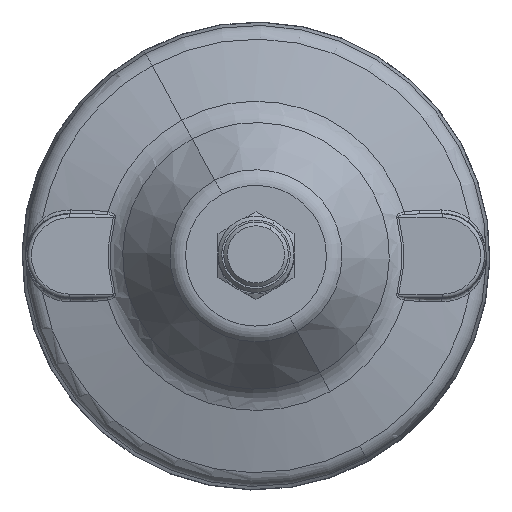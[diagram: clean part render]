
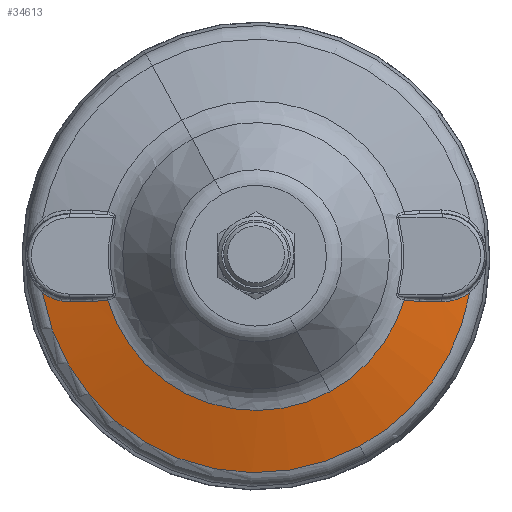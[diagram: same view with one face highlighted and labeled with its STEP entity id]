
A CAD part, top view. The second image highlights one B-rep face of the part: STEP entity #34613.
In plain terms, the highlighted conical face has half-angle 75 degrees and reference radius 40.631 mm.
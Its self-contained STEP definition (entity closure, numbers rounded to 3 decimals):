
#32797=CARTESIAN_POINT('Vertex',(38.937,-11.609,21.19)) ;
#33024=CARTESIAN_POINT('Vertex',(-38.937,-11.609,21.19)) ;
#33616=CARTESIAN_POINT('Vertex',(19.479,-35.657,21.19)) ;
#33619=CARTESIAN_POINT('Axis2P3D Location',(0.,0.,21.19)) ;
#33691=CARTESIAN_POINT('Control Point',(42.914,-11.979,20.139)) ;
#33692=CARTESIAN_POINT('Control Point',(42.572,-11.974,20.227)) ;
#33693=CARTESIAN_POINT('Control Point',(42.231,-11.964,20.316)) ;
#33694=CARTESIAN_POINT('Control Point',(41.89,-11.949,20.405)) ;
#33695=CARTESIAN_POINT('Control Point',(41.092,-11.901,20.614)) ;
#33696=CARTESIAN_POINT('Control Point',(40.296,-11.822,20.825)) ;
#33697=CARTESIAN_POINT('Control Point',(39.844,-11.766,20.945)) ;
#33698=CARTESIAN_POINT('Control Point',(39.389,-11.697,21.067)) ;
#33699=CARTESIAN_POINT('Control Point',(38.937,-11.609,21.19)) ;
#33700=CARTESIAN_POINT('Vertex',(42.914,-11.979,20.139)) ;
#33755=CARTESIAN_POINT('Control Point',(42.914,-11.979,20.139)) ;
#33756=CARTESIAN_POINT('Control Point',(44.078,-11.996,19.837)) ;
#33757=CARTESIAN_POINT('Control Point',(45.244,-12.014,19.534)) ;
#33758=CARTESIAN_POINT('Control Point',(46.412,-12.031,19.23)) ;
#33759=CARTESIAN_POINT('Control Point',(47.58,-12.048,18.926)) ;
#33760=CARTESIAN_POINT('Control Point',(48.749,-12.066,18.621)) ;
#33761=CARTESIAN_POINT('Vertex',(48.749,-12.066,18.621)) ;
#33816=CARTESIAN_POINT('Control Point',(48.749,-12.066,18.621)) ;
#33817=CARTESIAN_POINT('Control Point',(49.715,-12.08,18.368)) ;
#33818=CARTESIAN_POINT('Control Point',(50.686,-11.998,18.121)) ;
#33819=CARTESIAN_POINT('Control Point',(51.651,-11.819,17.88)) ;
#33820=CARTESIAN_POINT('Control Point',(53.164,-11.375,17.51)) ;
#33821=CARTESIAN_POINT('Control Point',(54.604,-10.681,17.169)) ;
#33822=CARTESIAN_POINT('Control Point',(55.129,-10.388,17.046)) ;
#33823=CARTESIAN_POINT('Control Point',(55.638,-10.059,16.928)) ;
#33824=CARTESIAN_POINT('Control Point',(56.128,-9.696,16.815)) ;
#33825=CARTESIAN_POINT('Vertex',(56.128,-9.696,16.815)) ;
#33880=CARTESIAN_POINT('Control Point',(-48.749,-12.066,18.621)) ;
#33881=CARTESIAN_POINT('Control Point',(-47.58,-12.048,18.926)) ;
#33882=CARTESIAN_POINT('Control Point',(-46.413,-12.031,19.23)) ;
#33883=CARTESIAN_POINT('Control Point',(-45.245,-12.014,19.534)) ;
#33884=CARTESIAN_POINT('Control Point',(-44.079,-11.996,19.837)) ;
#33885=CARTESIAN_POINT('Control Point',(-42.914,-11.979,20.139)) ;
#33886=CARTESIAN_POINT('Vertex',(-48.749,-12.066,18.621)) ;
#33888=CARTESIAN_POINT('Vertex',(-42.914,-11.979,20.139)) ;
#33968=CARTESIAN_POINT('Control Point',(-38.937,-11.609,21.19)) ;
#33969=CARTESIAN_POINT('Control Point',(-39.259,-11.671,21.103)) ;
#33970=CARTESIAN_POINT('Control Point',(-39.58,-11.724,21.016)) ;
#33971=CARTESIAN_POINT('Control Point',(-39.902,-11.77,20.93)) ;
#33972=CARTESIAN_POINT('Control Point',(-40.698,-11.867,20.718)) ;
#33973=CARTESIAN_POINT('Control Point',(-41.495,-11.929,20.508)) ;
#33974=CARTESIAN_POINT('Control Point',(-41.968,-11.955,20.384)) ;
#33975=CARTESIAN_POINT('Control Point',(-42.441,-11.972,20.261)) ;
#33976=CARTESIAN_POINT('Control Point',(-42.914,-11.979,20.139)) ;
#33985=CARTESIAN_POINT('Axis2P3D Location',(0.,0.,21.19)) ;
#34187=CARTESIAN_POINT('Control Point',(-56.128,-9.696,16.815)) ;
#34188=CARTESIAN_POINT('Control Point',(-55.222,-10.367,17.023)) ;
#34189=CARTESIAN_POINT('Control Point',(-54.251,-10.921,17.251)) ;
#34190=CARTESIAN_POINT('Control Point',(-53.236,-11.355,17.493)) ;
#34191=CARTESIAN_POINT('Control Point',(-51.724,-11.81,17.861)) ;
#34192=CARTESIAN_POINT('Control Point',(-50.185,-12.016,18.25)) ;
#34193=CARTESIAN_POINT('Control Point',(-49.706,-12.056,18.372)) ;
#34194=CARTESIAN_POINT('Control Point',(-49.227,-12.073,18.496)) ;
#34195=CARTESIAN_POINT('Control Point',(-48.749,-12.066,18.621)) ;
#34196=CARTESIAN_POINT('Vertex',(-56.128,-9.696,16.815)) ;
#34379=CARTESIAN_POINT('Axis2P3D Location',(0.,0.,21.19)) ;
#34589=CARTESIAN_POINT('Axis2P3D Location',(0.,0.,16.815)) ;
#34593=CARTESIAN_POINT('Vertex',(27.308,-49.987,16.815)) ;
#34596=CARTESIAN_POINT('Axis2P3D Location',(0.,0.,16.815)) ;
#33620=DIRECTION('Axis2P3D Direction',(0.,0.,1.)) ;
#33986=DIRECTION('Axis2P3D Direction',(0.,0.,1.)) ;
#34380=DIRECTION('Axis2P3D Direction',(-0.,-0.,-1.)) ;
#34381=DIRECTION('Axis2P3D XDirection',(-0.479,0.878,0.)) ;
#34590=DIRECTION('Axis2P3D Direction',(0.,0.,-1.)) ;
#34597=DIRECTION('Axis2P3D Direction',(0.,0.,-1.)) ;
#33621=AXIS2_PLACEMENT_3D('Circle Axis2P3D',#33619,#33620,$) ;
#33987=AXIS2_PLACEMENT_3D('Circle Axis2P3D',#33985,#33986,$) ;
#34382=AXIS2_PLACEMENT_3D('Cone Axis2P3D',#34379,#34380,#34381) ;
#34591=AXIS2_PLACEMENT_3D('Circle Axis2P3D',#34589,#34590,$) ;
#34598=AXIS2_PLACEMENT_3D('Circle Axis2P3D',#34596,#34597,$) ;
#34602=ORIENTED_EDGE('',*,*,#33989,.F.) ;
#34603=ORIENTED_EDGE('',*,*,#33977,.F.) ;
#34604=ORIENTED_EDGE('',*,*,#33890,.F.) ;
#34605=ORIENTED_EDGE('',*,*,#34198,.F.) ;
#34606=ORIENTED_EDGE('',*,*,#34595,.T.) ;
#34607=ORIENTED_EDGE('',*,*,#34600,.T.) ;
#34608=ORIENTED_EDGE('',*,*,#33827,.F.) ;
#34609=ORIENTED_EDGE('',*,*,#33763,.F.) ;
#34610=ORIENTED_EDGE('',*,*,#33702,.F.) ;
#34611=ORIENTED_EDGE('',*,*,#33623,.F.) ;
#34613=ADVANCED_FACE('PartBody',(#34612),#34383,.T.) ;
#33690=B_SPLINE_CURVE_WITH_KNOTS('',5,(#33691,#33692,#33693,#33694,#33695,#33696,#33697,#33698,#33699),.UNSPECIFIED.,.F.,.U.,(6,3,6),(16.003,18.478,21.789),.UNSPECIFIED.) ;
#33754=B_SPLINE_CURVE_WITH_KNOTS('',5,(#33755,#33756,#33757,#33758,#33759,#33760),.UNSPECIFIED.,.F.,.U.,(6,6),(11.019,19.558),.UNSPECIFIED.) ;
#33815=B_SPLINE_CURVE_WITH_KNOTS('',5,(#33816,#33817,#33818,#33819,#33820,#33821,#33822,#33823,#33824),.UNSPECIFIED.,.F.,.U.,(6,3,6),(22.585,29.343,33.369),.UNSPECIFIED.) ;
#33879=B_SPLINE_CURVE_WITH_KNOTS('',5,(#33880,#33881,#33882,#33883,#33884,#33885),.UNSPECIFIED.,.F.,.U.,(6,6),(14.929,23.469),.UNSPECIFIED.) ;
#33967=B_SPLINE_CURVE_WITH_KNOTS('',5,(#33968,#33969,#33970,#33971,#33972,#33973,#33974,#33975,#33976),.UNSPECIFIED.,.F.,.U.,(6,3,6),(25.28,27.644,31.068),.UNSPECIFIED.) ;
#34186=B_SPLINE_CURVE_WITH_KNOTS('',5,(#34187,#34188,#34189,#34190,#34191,#34192,#34193,#34194,#34195),.UNSPECIFIED.,.F.,.U.,(6,3,6),(49.555,56.996,60.338),.UNSPECIFIED.) ;
#33622=CIRCLE('generated circle',#33621,40.631) ;
#33988=CIRCLE('generated circle',#33987,40.631) ;
#34592=CIRCLE('generated circle',#34591,56.96) ;
#34599=CIRCLE('generated circle',#34598,56.96) ;
#34383=CONICAL_SURFACE('Cone',#34382,40.631,1.309) ;
#33623=EDGE_CURVE('',#33617,#32798,#33622,.T.) ;
#33702=EDGE_CURVE('',#32798,#33701,#33690,.F.) ;
#33763=EDGE_CURVE('',#33701,#33762,#33754,.T.) ;
#33827=EDGE_CURVE('',#33762,#33826,#33815,.T.) ;
#33890=EDGE_CURVE('',#33887,#33889,#33879,.T.) ;
#33977=EDGE_CURVE('',#33889,#33025,#33967,.F.) ;
#33989=EDGE_CURVE('',#33025,#33617,#33988,.T.) ;
#34198=EDGE_CURVE('',#34197,#33887,#34186,.T.) ;
#34595=EDGE_CURVE('',#34197,#34594,#34592,.F.) ;
#34600=EDGE_CURVE('',#34594,#33826,#34599,.F.) ;
#34601=EDGE_LOOP('',(#34602,#34603,#34604,#34605,#34606,#34607,#34608,#34609,#34610,#34611)) ;
#34612=FACE_OUTER_BOUND('',#34601,.T.) ;
#32798=VERTEX_POINT('',#32797) ;
#33025=VERTEX_POINT('',#33024) ;
#33617=VERTEX_POINT('',#33616) ;
#33701=VERTEX_POINT('',#33700) ;
#33762=VERTEX_POINT('',#33761) ;
#33826=VERTEX_POINT('',#33825) ;
#33887=VERTEX_POINT('',#33886) ;
#33889=VERTEX_POINT('',#33888) ;
#34197=VERTEX_POINT('',#34196) ;
#34594=VERTEX_POINT('',#34593) ;
